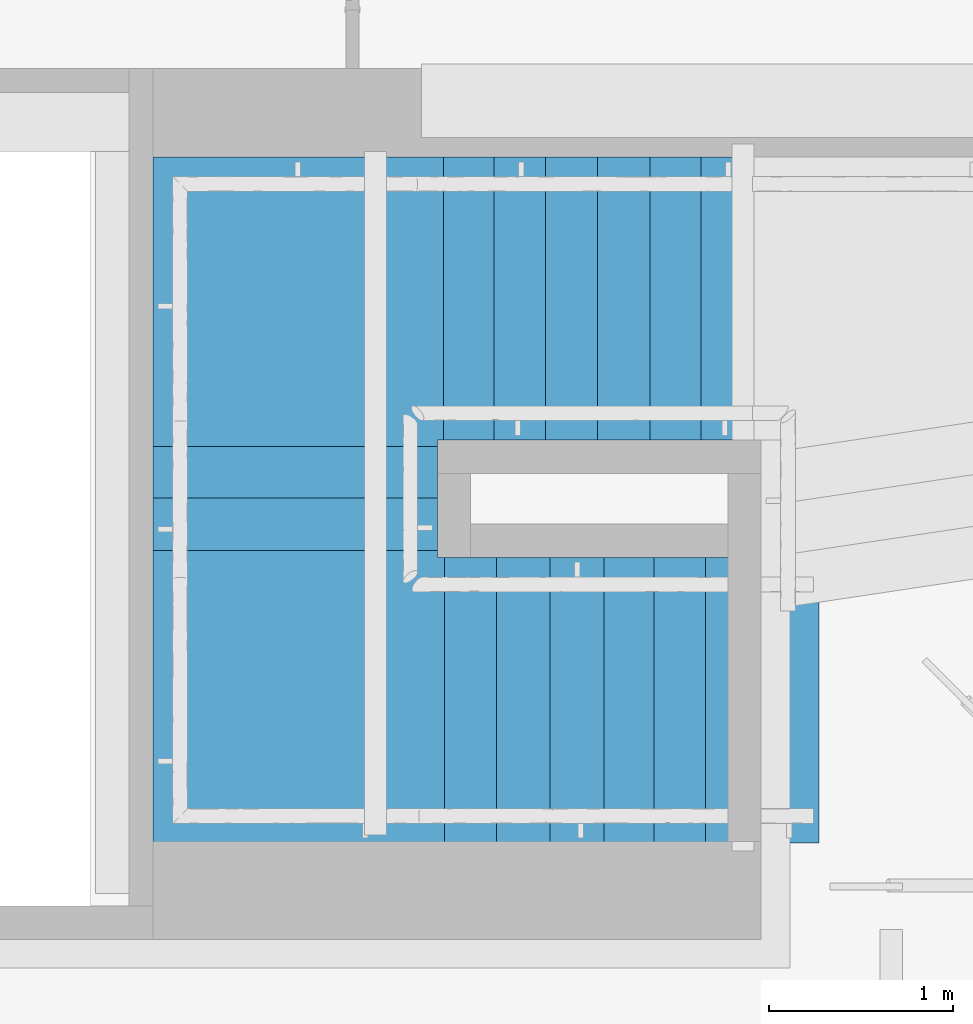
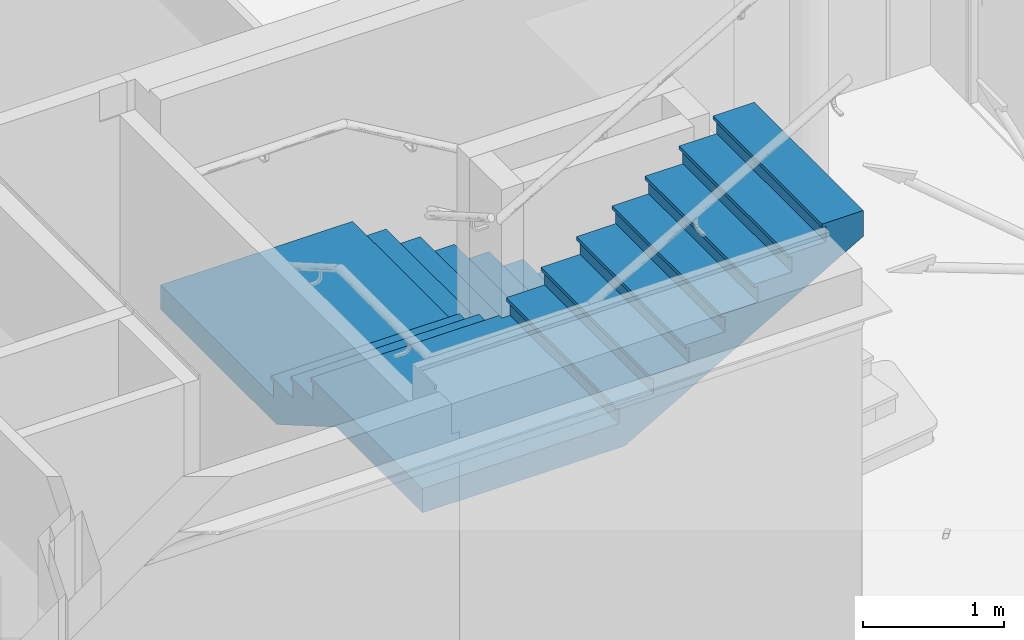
# One storey, part 46 of 65: 1 stair flight, 1 element without a shape of its own.
"""IFC4 building model written with IfcOpenShell, lengths in metres."""

import ifcopenshell
import ifcopenshell.guid

model = None  # the IFC model being written
_history = None  # IfcOwnerHistory: only IFC2X3 demands one
_inside = {}  # id of a spatial element -> (the spatial element, [elements in it])
_under = {}  # id of a project, library or spatial element -> (it, [spatial elements below it])
_declared = {}  # id of a project -> (the project, [libraries it declares])
_typed = {}  # id of a type object -> (the type object, [elements of that type])
_made_of = {}  # id of a material, layer set ... -> (it, [elements and type objects made of it])


def new_model(schema):
    """Start an empty IFC model of exactly this schema.

    Asked for "IFC4X3", IfcOpenShell would pick the latest addendum, in which some entities
    have other attributes; the version numbers below select the first issue.
    IFC2X3 requires an IfcOwnerHistory on every rooted entity: one is made here for all.
    """
    global model, _history
    if schema == "IFC4X3":
        model = ifcopenshell.file(schema_version=(4, 3, 0, 0))
    else:
        model = ifcopenshell.file(schema=schema)
    _inside.clear()
    _under.clear()
    _declared.clear()
    _typed.clear()
    _made_of.clear()
    _history = None
    if model.schema == "IFC2X3":
        org = make("IfcOrganization", Name="unknown")
        user = make(
            "IfcPersonAndOrganization",
            ThePerson=make("IfcPerson", FamilyName="unknown"),
            TheOrganization=org,
        )
        app = make(
            "IfcApplication",
            ApplicationDeveloper=org,
            Version="unknown",
            ApplicationFullName="unknown",
            ApplicationIdentifier="unknown",
        )
        _history = make(
            "IfcOwnerHistory",
            OwningUser=user,
            OwningApplication=app,
            ChangeAction="ADDED",
            CreationDate=0,
        )
    return model


def make(cls, **values):
    """One entity of the class cls with the attributes given. An attribute that is None is left unset."""
    return model.create_entity(
        cls, **{name: value for name, value in values.items() if value is not None}
    )


def entity(cls, *values):
    """Any entity or typed value of the class cls, its attributes in the order of the schema. None: left unset."""
    e = model.create_entity(cls)
    for i, value in enumerate(values):
        if value is not None:
            e[i] = value
    return e


def rooted(cls, **values):
    """An entity with a GlobalId (a new one), such as an element, a storey or a relation."""
    return make(cls, GlobalId=ifcopenshell.guid.new(), OwnerHistory=_history, **values)


def si_unit(unit_type, name, prefix=None):
    """IfcSIUnit, for example si_unit("LENGTHUNIT", "METRE", prefix="MILLI")."""
    return make("IfcSIUnit", UnitType=unit_type, Prefix=prefix, Name=name)


def converted_unit(unit_type, name, factor, base, dimensions=None, offset=None):
    """IfcConversionBasedUnit, such as the inch: factor (a typed value) times the base unit."""
    return make(
        "IfcConversionBasedUnit"
        if offset is None
        else "IfcConversionBasedUnitWithOffset",
        ConversionOffset=offset,
        Dimensions=None
        if dimensions is None
        else entity("IfcDimensionalExponents", *dimensions),
        UnitType=unit_type,
        Name=name,
        ConversionFactor=make(
            "IfcMeasureWithUnit", ValueComponent=factor, UnitComponent=base
        ),
    )


def derived_unit(unit_type, elements):
    """IfcDerivedUnit: a product of units, each with its exponent."""
    return make(
        "IfcDerivedUnit",
        Elements=[
            make("IfcDerivedUnitElement", Unit=unit, Exponent=power)
            for unit, power in elements
        ],
        UnitType=unit_type,
    )


def assignment(units):
    """IfcUnitAssignment: the units of a project."""
    return None if units is None else make("IfcUnitAssignment", Units=units)


def point(xyz):
    """IfcCartesianPoint."""
    return None if xyz is None else make("IfcCartesianPoint", Coordinates=xyz)


def direction(xyz):
    """IfcDirection."""
    return None if xyz is None else make("IfcDirection", DirectionRatios=xyz)


def frame(location, z_axis=None, x_axis=None):
    """IfcAxis2Placement3D, a coordinate frame: its origin and axes. An axis left out is left unset."""
    return make(
        "IfcAxis2Placement3D",
        Location=point(location),
        Axis=direction(z_axis),
        RefDirection=direction(x_axis),
    )


def origin():
    """The frame at (0, 0, 0) with its axes left unset."""
    return frame((0.0, 0.0, 0.0))


def place(relative_to, where):
    """IfcLocalPlacement: puts the frame where relative to a parent placement (None: the world)."""
    return make(
        "IfcLocalPlacement", PlacementRelTo=relative_to, RelativePlacement=where
    )


def context(
    kind, dimensions, precision=None, world=None, true_north=None, identifier=None
):
    """IfcGeometricRepresentationContext, for example the 3D "Model" context."""
    return make(
        "IfcGeometricRepresentationContext",
        ContextIdentifier=identifier,
        ContextType=kind,
        CoordinateSpaceDimension=dimensions,
        Precision=precision,
        WorldCoordinateSystem=world,
        TrueNorth=true_north,
    )


def subcontext(parent, identifier, kind, view, scale=None):
    """IfcGeometricRepresentationSubContext, for example "Body" below "Model"."""
    return make(
        "IfcGeometricRepresentationSubContext",
        ContextIdentifier=identifier,
        ContextType=kind,
        ParentContext=parent,
        TargetScale=scale,
        TargetView=view,
    )


def project(units=None, contexts=None):
    """IfcProject with its units and contexts."""
    return rooted(
        "IfcProject",
        Name="project",
        RepresentationContexts=contexts,
        UnitsInContext=assignment(units),
    )


def spatial(cls, under=None, at=None, **own):
    """A site, building, storey or space (cls), placed at a placement, below another one or the project."""
    s = rooted(cls, ObjectPlacement=at, **own)
    if under is not None:
        _under.setdefault(under.id(), (under, []))[1].append(s)
    return s


def point_list(points):
    """IfcCartesianPointList2D or 3D."""
    cls = (
        "IfcCartesianPointList2D" if len(points[0]) == 2 else "IfcCartesianPointList3D"
    )
    return make(cls, CoordList=points)


def polygons(points, faces, closed=None, point_numbers=None):
    """IfcPolygonalFaceSet: a face is its outer loop, then its inner loops; points numbered from 1."""
    made = []
    for loops in faces:
        if len(loops) == 1:
            made.append(make("IfcIndexedPolygonalFace", CoordIndex=loops[0]))
        else:
            made.append(
                make(
                    "IfcIndexedPolygonalFaceWithVoids",
                    CoordIndex=loops[0],
                    InnerCoordIndices=loops[1:],
                )
            )
    return make(
        "IfcPolygonalFaceSet",
        Coordinates=point_list(points),
        Closed=closed,
        Faces=made,
        PnIndex=point_numbers,
    )


def shape(context_of_items, identifier, shape_type, items):
    """IfcShapeRepresentation: the items that make up one representation, for example the "Body"."""
    return make(
        "IfcShapeRepresentation",
        ContextOfItems=context_of_items,
        RepresentationIdentifier=identifier,
        RepresentationType=shape_type,
        Items=items,
    )


def material(Name=None, Category=None):
    """IfcMaterial."""
    return make("IfcMaterial", Name=Name, Category=Category)


def constituent(of_material, Name=None, Category=None, fraction=None):
    """IfcMaterialConstituent: one of the materials an element consists of."""
    return make(
        "IfcMaterialConstituent",
        Name=Name,
        Material=of_material,
        Fraction=fraction,
        Category=Category,
    )


def constituent_set(constituents=None, Name=None):
    """IfcMaterialConstituentSet."""
    return make(
        "IfcMaterialConstituentSet", Name=Name, MaterialConstituents=constituents
    )


def made_of(thing, what):
    """Note that an element or type object is made of a material, layer set ...; save() writes the relation."""
    if what is not None:
        _made_of.setdefault(what.id(), (what, []))[1].append(thing)
    return thing


def type_object(cls, material=None, **own):
    """A type object (cls), such as IfcWallType, which elements share."""
    return made_of(rooted(cls, **own), material)


def element(
    cls,
    number,
    at=None,
    inside=None,
    cuts=None,
    type_object=None,
    material=None,
    context=None,
    identifier="Body",
    shape_type=None,
    held_by="IfcProductDefinitionShape",
    body=None,
    shapes=None,
    **own,
):
    """One element of the class cls, such as IfcWall. Its Tag is "e" and its number.

    at: its placement. inside: the storey or other place that contains it. cuts: it is an
    opening in that element (IfcRelVoidsElement). A single representation is given by context,
    identifier, shape_type and body (its items); several are given by shapes. held_by: the class
    of the entity that holds the representations. save() writes the other relations.
    """
    e = rooted(cls, Tag="e%d" % number, ObjectPlacement=at, **own)
    if body is not None:
        shapes = [shape(context, identifier, shape_type, body)]
    if shapes is not None:
        e.Representation = make(held_by, Representations=shapes)
    if inside is not None:
        _inside.setdefault(inside.id(), (inside, []))[1].append(e)
    if cuts is not None:
        rooted(
            "IfcRelVoidsElement", RelatingBuildingElement=cuts, RelatedOpeningElement=e
        )
    if type_object is not None:
        _typed.setdefault(type_object.id(), (type_object, []))[1].append(e)
    return made_of(e, material)


def aggregate(whole, parts):
    """IfcRelAggregates: a whole, such as a stair, and the parts it consists of."""
    return rooted("IfcRelAggregates", RelatingObject=whole, RelatedObjects=parts)


def save(model, path):
    """Write the relations noted so far, then the file.

    IfcRelAggregates (storeys below a building ...), IfcRelContainedInSpatialStructure (elements
    in a storey), IfcRelDefinesByType, IfcRelAssociatesMaterial and IfcRelDeclares: one each for
    every whole, place, type object, material and project.
    """
    for whole, parts in _under.values():
        aggregate(whole, parts)
    for where, things in _inside.values():
        rooted(
            "IfcRelContainedInSpatialStructure",
            RelatedElements=things,
            RelatingStructure=where,
        )
    for kind, things in _typed.values():
        rooted("IfcRelDefinesByType", RelatedObjects=things, RelatingType=kind)
    for what, things in _made_of.values():
        rooted("IfcRelAssociatesMaterial", RelatedObjects=things, RelatingMaterial=what)
    for by, libraries in _declared.values():
        rooted("IfcRelDeclares", RelatingContext=by, RelatedDefinitions=libraries)
    model.write(path)


model = new_model("IFC4")

# Units and contexts
model_context = context("Model", 3, precision=1e-05, world=origin(), true_north=direction((6.12303176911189e-17, 1.0)))
body_context = subcontext(model_context, "Body", "Model", "MODEL_VIEW")
ifc_project = project(units=[si_unit("LENGTHUNIT", "METRE"), si_unit("AREAUNIT", "SQUARE_METRE"), si_unit("VOLUMEUNIT", "CUBIC_METRE"), converted_unit("PLANEANGLEUNIT", "DEGREE", entity("IfcRatioMeasure", 0.0174532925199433), si_unit("PLANEANGLEUNIT", "RADIAN"), dimensions=[0, 0, 0, 0, 0, 0, 0]), si_unit("MASSUNIT", "GRAM", prefix="KILO"), derived_unit("MASSDENSITYUNIT", [(si_unit("MASSUNIT", "GRAM", prefix="KILO"), 1), (si_unit("LENGTHUNIT", "METRE"), -3)]), derived_unit("MOMENTOFINERTIAUNIT", [(si_unit("LENGTHUNIT", "METRE"), 4)]), si_unit("TIMEUNIT", "SECOND"), si_unit("FREQUENCYUNIT", "HERTZ"), si_unit("THERMODYNAMICTEMPERATUREUNIT", "DEGREE_CELSIUS"), derived_unit("THERMALTRANSMITTANCEUNIT", [(si_unit("MASSUNIT", "GRAM", prefix="KILO"), 1), (si_unit("THERMODYNAMICTEMPERATUREUNIT", "KELVIN"), -1), (si_unit("TIMEUNIT", "SECOND"), -3)]), derived_unit("VOLUMETRICFLOWRATEUNIT", [(si_unit("LENGTHUNIT", "METRE"), 3), (si_unit("TIMEUNIT", "SECOND"), -1)]), si_unit("ELECTRICCURRENTUNIT", "AMPERE"), si_unit("ELECTRICVOLTAGEUNIT", "VOLT"), si_unit("POWERUNIT", "WATT"), si_unit("FORCEUNIT", "NEWTON", prefix="KILO"), si_unit("ILLUMINANCEUNIT", "LUX"), si_unit("LUMINOUSFLUXUNIT", "LUMEN"), si_unit("LUMINOUSINTENSITYUNIT", "CANDELA"), derived_unit("USERDEFINED", [(si_unit("MASSUNIT", "GRAM", prefix="KILO"), -1), (si_unit("LENGTHUNIT", "METRE"), -2), (si_unit("TIMEUNIT", "SECOND"), 3), (si_unit("LUMINOUSFLUXUNIT", "LUMEN"), 1)]), derived_unit("LINEARVELOCITYUNIT", [(si_unit("LENGTHUNIT", "METRE"), 1), (si_unit("TIMEUNIT", "SECOND"), -1)]), si_unit("PRESSUREUNIT", "PASCAL"), derived_unit("USERDEFINED", [(si_unit("LENGTHUNIT", "METRE"), -2), (si_unit("MASSUNIT", "GRAM", prefix="KILO"), 1), (si_unit("TIMEUNIT", "SECOND"), -2)]), derived_unit("LINEARFORCEUNIT", [(si_unit("MASSUNIT", "GRAM", prefix="KILO"), 1), (si_unit("LENGTHUNIT", "METRE"), 1), (si_unit("TIMEUNIT", "SECOND"), -2), (si_unit("LENGTHUNIT", "METRE"), -1)]), derived_unit("PLANARFORCEUNIT", [(si_unit("MASSUNIT", "GRAM", prefix="KILO"), 1), (si_unit("LENGTHUNIT", "METRE"), 1), (si_unit("TIMEUNIT", "SECOND"), -2), (si_unit("LENGTHUNIT", "METRE"), -2)])], contexts=[model_context])

# Site, building, storey
site_placement = place(None, origin())
site = spatial("IfcSite", under=ifc_project, at=site_placement, Name="Default", CompositionType="ELEMENT")
building_placement = place(site_placement, origin())
building = spatial("IfcBuilding", under=site, at=building_placement, Name="HOTEL CONSULAIRE BOULOGNE SUR MER", CompositionType="ELEMENT")
storey_placement = place(building_placement, origin())
storey = spatial("IfcBuildingStorey", under=building, at=storey_placement, Name="Niveau 0", CompositionType="ELEMENT", Elevation=1.31981936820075e-13)

# Stair, stair flight
stair_type = type_object("IfcStairType", PredefinedType="NOTDEFINED")
stair_placement = place(storey_placement, origin())
stair = element("IfcStair", 1, at=stair_placement, inside=storey, type_object=stair_type, Name="Escalier coulé sur place:Escalier", PredefinedType="NOTDEFINED")
ifc_material_1 = material(Name="carrelage 30x30")
ifc_constituent_1 = constituent(ifc_material_1, Name="carrelage 30x30", Category="Matériaux")
ifc_material_2 = material(Name="Maçonnerie - Béton", Category="Béton")
ifc_constituent_2 = constituent(ifc_material_2, Name="Maçonnerie - Béton", Category="Matériaux")
ifc_constituent_set = constituent_set(constituents=[ifc_constituent_1, ifc_constituent_2], Name="MaterialConstituentSet")
stair_flight_type = type_object("IfcStairFlightType", Name="Volée monobloc:Profondeur de structure 180", PredefinedType="NOTDEFINED")
stair_flight_placement = place(stair_placement, frame((1.75747131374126, -19.5719143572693, 0.0)))
stair_flight = element("IfcStairFlight", 2, at=stair_flight_placement, type_object=stair_flight_type, material=ifc_constituent_set, Name="Escalier coulé sur place:Escalier:350448 Run 1", ObjectType="Volée monobloc:Profondeur de structure 180", PredefinedType="NOTDEFINED", context=body_context, shape_type="Tessellation", body=[
    polygons([(2.93988920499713, 2.1830268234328, 0.843418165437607), (3.24788920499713, 2.1830268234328, 0.843418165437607), (3.24788920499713, 3.71667231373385, 0.843418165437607), (2.93988920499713, 3.71667231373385, 0.843418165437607), (2.93988920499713, 2.1830268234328, 0.813418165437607), (2.93988920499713, 3.71667231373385, 0.813418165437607), (3.24788920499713, 3.71667231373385, 0.813418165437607), (3.24788920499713, 2.1830268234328, 0.813418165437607)], [[[4, 1, 2, 3]], [[7, 8, 5, 6]], [[2, 1, 5, 8]], [[3, 2, 8, 7]], [[4, 3, 7, 6]], [[1, 4, 6, 5]]], closed=True),
    polygons([(2.66188920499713, 2.1830268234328, 1.00683633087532), (2.96988920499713, 2.1830268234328, 1.00683633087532), (2.96988920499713, 3.71667231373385, 1.00683633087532), (2.66188920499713, 3.71667231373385, 1.00683633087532), (2.66188920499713, 2.1830268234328, 0.976836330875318), (2.66188920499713, 3.71667231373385, 0.976836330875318), (2.96988920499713, 3.71667231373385, 0.976836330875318), (2.96988920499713, 2.1830268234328, 0.976836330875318)], [[[4, 1, 2, 3]], [[7, 8, 5, 6]], [[2, 1, 5, 8]], [[3, 2, 8, 7]], [[4, 3, 7, 6]], [[1, 4, 6, 5]]], closed=True),
    polygons([(2.37727978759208, 2.1830268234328, 1.17025449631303), (2.69188920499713, 2.1830268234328, 1.17025449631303), (2.69188920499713, 3.71667231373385, 1.17025449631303), (2.37727978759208, 3.71667231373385, 1.17025449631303), (2.37727978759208, 2.1830268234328, 1.14025449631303), (2.37727978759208, 3.71667231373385, 1.14025449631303), (2.69188920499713, 3.71667231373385, 1.14025449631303), (2.69188920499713, 2.1830268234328, 1.14025449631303)], [[[4, 1, 2, 3]], [[7, 8, 5, 6]], [[2, 1, 5, 8]], [[3, 2, 8, 7]], [[4, 3, 7, 6]], [[1, 4, 6, 5]]], closed=True),
    polygons([(2.0976635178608, 2.1830268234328, 1.33367266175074), (2.40727978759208, 2.1830268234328, 1.33367266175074), (2.40727978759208, 3.71667231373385, 1.33367266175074), (2.0976635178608, 3.71667231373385, 1.33367266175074), (2.0976635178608, 2.1830268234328, 1.30367266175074), (2.0976635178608, 3.71667231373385, 1.30367266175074), (2.40727978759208, 3.71667231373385, 1.30367266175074), (2.40727978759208, 2.1830268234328, 1.30367266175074)], [[[4, 1, 2, 3]], [[7, 8, 5, 6]], [[2, 1, 5, 8]], [[3, 2, 8, 7]], [[4, 3, 7, 6]], [[1, 4, 6, 5]]], closed=True),
    polygons([(1.8176635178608, 2.1830268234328, 1.49709082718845), (2.1276635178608, 2.1830268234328, 1.49709082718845), (2.1276635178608, 3.71667231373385, 1.49709082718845), (1.8176635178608, 3.71667231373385, 1.49709082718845), (1.8176635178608, 2.1830268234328, 1.46709082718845), (1.8176635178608, 3.71667231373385, 1.46709082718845), (2.1276635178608, 3.71667231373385, 1.46709082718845), (2.1276635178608, 2.1830268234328, 1.46709082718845)], [[[4, 1, 2, 3]], [[7, 8, 5, 6]], [[2, 1, 5, 8]], [[3, 2, 8, 7]], [[4, 3, 7, 6]], [[1, 4, 6, 5]]], closed=True),
    polygons([(1.54283104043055, 2.1830268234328, 1.66050899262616), (1.8476635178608, 2.1830268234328, 1.66050899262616), (1.8476635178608, 3.71667231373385, 1.66050899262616), (1.54283104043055, 3.71667231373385, 1.66050899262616), (1.54283104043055, 2.1830268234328, 1.63050899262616), (1.54283104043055, 3.71667231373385, 1.63050899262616), (1.8476635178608, 3.71667231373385, 1.63050899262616), (1.8476635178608, 2.1830268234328, 1.63050899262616)], [[[4, 1, 2, 3]], [[7, 8, 5, 6]], [[2, 1, 5, 8]], [[3, 2, 8, 7]], [[4, 3, 7, 6]], [[1, 4, 6, 5]]], closed=True),
    polygons([(1.53998364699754, 2.11792888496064, 1.82392715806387), (1.53998364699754, 2.1830268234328, 1.82392715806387), (1.57283104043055, 2.1830268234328, 1.82392715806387), (1.57283104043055, 3.71667231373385, 1.82392715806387), (2.70716782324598e-16, 3.71667231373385, 1.82392715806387), (2.70716782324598e-16, 2.11792888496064, 1.82392715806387), (1.53998364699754, 2.11792888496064, 1.79392715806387), (2.70716782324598e-16, 2.11792888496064, 1.79392715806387), (2.70716782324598e-16, 3.71667231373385, 1.79392715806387), (1.57283104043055, 3.71667231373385, 1.79392715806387), (1.57283104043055, 2.1830268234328, 1.79392715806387), (1.53998364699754, 2.1830268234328, 1.79392715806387)], [[[2, 3, 4, 5, 6, 1]], [[9, 10, 11, 12, 7, 8]], [[2, 1, 7, 12]], [[4, 3, 11, 10]], [[3, 2, 12, 11]], [[1, 6, 8, 7]], [[5, 4, 10, 9]], [[6, 5, 9, 8]]], closed=True),
    polygons([(1.53998364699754, 1.83892888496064, 1.98734532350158), (1.53998364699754, 2.14792888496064, 1.98734532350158), (2.70716782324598e-16, 2.14792888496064, 1.98734532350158), (2.70716782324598e-16, 1.83892888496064, 1.98734532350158), (1.53998364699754, 1.83892888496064, 1.95734532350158), (2.70716782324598e-16, 1.83892888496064, 1.95734532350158), (2.70716782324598e-16, 2.14792888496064, 1.95734532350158), (1.53998364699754, 2.14792888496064, 1.95734532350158)], [[[4, 1, 2, 3]], [[7, 8, 5, 6]], [[2, 1, 5, 8]], [[3, 2, 8, 7]], [[4, 3, 7, 6]], [[1, 4, 6, 5]]], closed=True),
    polygons([(1.53998364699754, 1.55392888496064, 2.15076348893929), (1.53998364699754, 1.86892888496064, 2.15076348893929), (2.70716782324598e-16, 1.86892888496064, 2.15076348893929), (2.70716782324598e-16, 1.55392888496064, 2.15076348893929), (1.53998364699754, 1.55392888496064, 2.12076348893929), (2.70716782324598e-16, 1.55392888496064, 2.12076348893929), (2.70716782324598e-16, 1.86892888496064, 2.12076348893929), (1.53998364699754, 1.86892888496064, 2.12076348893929)], [[[4, 1, 2, 3]], [[7, 8, 5, 6]], [[2, 1, 5, 8]], [[3, 2, 8, 7]], [[4, 3, 7, 6]], [[1, 4, 6, 5]]], closed=True),
    polygons([(1.60816075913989, 1.54702682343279, 2.314181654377), (1.53998364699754, 1.54702682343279, 2.314181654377), (1.53998364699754, 1.58392888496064, 2.314181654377), (2.70716782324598e-16, 1.58392888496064, 2.314181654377), (2.70716782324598e-16, 0.0, 2.314181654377), (1.60816075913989, 0.0, 2.314181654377), (1.60816075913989, 1.54702682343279, 2.284181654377), (1.60816075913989, 0.0, 2.284181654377), (2.70716782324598e-16, 0.0, 2.284181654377), (2.70716782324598e-16, 1.58392888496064, 2.284181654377), (1.53998364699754, 1.58392888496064, 2.284181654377), (1.53998364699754, 1.54702682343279, 2.284181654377)], [[[2, 3, 4, 5, 6, 1]], [[9, 10, 11, 12, 7, 8]], [[2, 1, 7, 12]], [[4, 3, 11, 10]], [[3, 2, 12, 11]], [[1, 6, 8, 7]], [[5, 4, 10, 9]], [[6, 5, 9, 8]]], closed=True),
    polygons([(1.89098836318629, 1.54702682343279, 2.47759981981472), (1.57816075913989, 1.54702682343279, 2.47759981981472), (1.57816075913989, 0.0, 2.47759981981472), (1.89098836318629, 0.0, 2.47759981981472), (1.89098836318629, 1.54702682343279, 2.44759981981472), (1.89098836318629, 0.0, 2.44759981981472), (1.57816075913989, 0.0, 2.44759981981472), (1.57816075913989, 1.54702682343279, 2.44759981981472)], [[[4, 1, 2, 3]], [[7, 8, 5, 6]], [[2, 1, 5, 8]], [[3, 2, 8, 7]], [[4, 3, 7, 6]], [[1, 4, 6, 5]]], closed=True),
    polygons([(2.18198836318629, 1.54702682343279, 2.64101798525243), (1.86098836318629, 1.54702682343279, 2.64101798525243), (1.86098836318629, 0.0, 2.64101798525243), (2.18198836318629, 0.0, 2.64101798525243), (2.18198836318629, 1.54702682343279, 2.61101798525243), (2.18198836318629, 0.0, 2.61101798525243), (1.86098836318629, 0.0, 2.61101798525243), (1.86098836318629, 1.54702682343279, 2.61101798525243)], [[[4, 1, 2, 3]], [[7, 8, 5, 6]], [[2, 1, 5, 8]], [[3, 2, 8, 7]], [[4, 3, 7, 6]], [[1, 4, 6, 5]]], closed=True),
    polygons([(2.47398836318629, 1.54702682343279, 2.80443615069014), (2.15198836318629, 1.54702682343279, 2.80443615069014), (2.15198836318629, 0.0, 2.80443615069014), (2.47398836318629, 0.0, 2.80443615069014), (2.47398836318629, 1.54702682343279, 2.77443615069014), (2.47398836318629, 0.0, 2.77443615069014), (2.15198836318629, 0.0, 2.77443615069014), (2.15198836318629, 1.54702682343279, 2.77443615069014)], [[[4, 1, 2, 3]], [[7, 8, 5, 6]], [[2, 1, 5, 8]], [[3, 2, 8, 7]], [[4, 3, 7, 6]], [[1, 4, 6, 5]]], closed=True),
    polygons([(2.74398836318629, 1.54702682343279, 2.96785431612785), (2.44398836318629, 1.54702682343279, 2.96785431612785), (2.44398836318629, 0.0, 2.96785431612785), (2.74398836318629, 0.0, 2.96785431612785), (2.74398836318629, 1.54702682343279, 2.93785431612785), (2.74398836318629, 0.0, 2.93785431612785), (2.44398836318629, 0.0, 2.93785431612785), (2.44398836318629, 1.54702682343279, 2.93785431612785)], [[[4, 1, 2, 3]], [[7, 8, 5, 6]], [[2, 1, 5, 8]], [[3, 2, 8, 7]], [[4, 3, 7, 6]], [[1, 4, 6, 5]]], closed=True),
    polygons([(3.02241508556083, 1.54702682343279, 3.13127248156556), (2.71398836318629, 1.54702682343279, 3.13127248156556), (2.71398836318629, 0.0, 3.13127248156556), (3.02241508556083, 0.0, 3.13127248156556), (3.02241508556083, 1.54702682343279, 3.10127248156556), (3.02241508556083, 0.0, 3.10127248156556), (2.71398836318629, 0.0, 3.10127248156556), (2.71398836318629, 1.54702682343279, 3.10127248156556)], [[[4, 1, 2, 3]], [[7, 8, 5, 6]], [[2, 1, 5, 8]], [[3, 2, 8, 7]], [[4, 3, 7, 6]], [[1, 4, 6, 5]]], closed=True),
    polygons([(3.30084180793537, 1.54702682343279, 3.29469064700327), (2.99241508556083, 1.54702682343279, 3.29469064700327), (2.99241508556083, 0.0, 3.29469064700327), (3.30084180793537, 0.0, 3.29469064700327), (3.30084180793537, 1.54702682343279, 3.26469064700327), (3.30084180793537, 0.0, 3.26469064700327), (2.99241508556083, 0.0, 3.26469064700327), (2.99241508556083, 1.54702682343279, 3.26469064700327)], [[[4, 1, 2, 3]], [[7, 8, 5, 6]], [[2, 1, 5, 8]], [[3, 2, 8, 7]], [[4, 3, 7, 6]], [[1, 4, 6, 5]]], closed=True),
    polygons([(3.60926853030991, 1.54702682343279, 3.45810881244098), (3.27084180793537, 1.54702682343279, 3.45810881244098), (3.27084180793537, 0.0, 3.45810881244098), (3.60926853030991, 0.0, 3.45810881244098), (3.60926853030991, 1.54702682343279, 3.42810881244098), (3.60926853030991, 0.0, 3.42810881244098), (3.27084180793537, 0.0, 3.42810881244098), (3.27084180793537, 1.54702682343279, 3.42810881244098)], [[[4, 1, 2, 3]], [[7, 8, 5, 6]], [[2, 1, 5, 8]], [[3, 2, 8, 7]], [[4, 3, 7, 6]], [[1, 4, 6, 5]]], closed=True),
    polygons([(2.93988920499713, 2.1830268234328, 0.813418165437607), (3.21788920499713, 2.1830268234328, 0.813418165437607), (3.21788920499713, 3.71667231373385, 0.813418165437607), (2.93988920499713, 3.71667231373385, 0.813418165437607), (2.93988920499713, 2.1830268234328, 0.68), (3.21788920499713, 2.1830268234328, 0.68), (3.21788920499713, 3.71667231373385, 0.68), (2.93988920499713, 3.71667231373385, 0.68), (2.66188920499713, 2.1830268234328, 0.976836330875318), (2.93988920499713, 2.1830268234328, 0.976836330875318), (2.93988920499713, 3.71667231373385, 0.976836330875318), (2.66188920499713, 3.71667231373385, 0.976836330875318), (2.66188920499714, 2.1830268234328, 0.766888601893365), (2.81032584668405, 2.1830268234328, 0.68), (2.81032584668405, 3.71667231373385, 0.679999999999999), (2.66188920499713, 3.71667231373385, 0.766888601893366), (2.37727978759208, 2.1830268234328, 1.14025449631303), (2.66188920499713, 2.1830268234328, 1.14025449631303), (2.66188920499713, 3.71667231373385, 1.14025449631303), (2.37727978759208, 3.71667231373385, 1.14025449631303), (2.37727978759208, 2.1830268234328, 0.933487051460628), (2.37727978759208, 3.71667231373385, 0.933487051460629), (2.0976635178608, 2.1830268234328, 1.30367266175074), (2.37727978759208, 2.1830268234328, 1.30367266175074), (2.37727978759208, 3.71667231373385, 1.30367266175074), (2.0976635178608, 3.71667231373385, 1.30367266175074), (2.0976635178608, 2.1830268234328, 1.09716272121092), (2.0976635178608, 3.71667231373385, 1.09716272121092), (1.8176635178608, 2.1830268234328, 1.46709082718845), (2.0976635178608, 2.1830268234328, 1.46709082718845), (2.0976635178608, 3.71667231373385, 1.46709082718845), (1.8176635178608, 3.71667231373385, 1.46709082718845), (1.8176635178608, 2.1830268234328, 1.26106301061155), (1.8176635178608, 3.71667231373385, 1.26106301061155), (1.54283104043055, 2.1830268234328, 1.63050899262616), (1.8176635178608, 2.1830268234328, 1.63050899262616), (1.8176635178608, 3.71667231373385, 1.63050899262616), (1.54283104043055, 3.71667231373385, 1.63050899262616), (1.54283104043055, 2.1830268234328, 1.42193844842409), (1.54283104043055, 3.71667231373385, 1.42193844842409), (1.53998364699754, 2.11792888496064, 1.79392715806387), (1.53998364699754, 2.1830268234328, 1.79392715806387), (1.54283104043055, 2.1830268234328, 1.79392715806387), (1.54283104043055, 3.71667231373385, 1.79392715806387), (1.21484602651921, 3.71667231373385, 1.79392715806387), (2.70716782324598e-16, 3.71667231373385, 1.79392715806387), (2.70716782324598e-16, 2.11792888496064, 1.79392715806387), (1.53998364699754, 2.11792888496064, 1.61392715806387), (1.53998364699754, 2.1830268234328, 1.61392715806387), (1.21484602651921, 2.1830268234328, 1.61392715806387), (1.21484602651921, 3.71667231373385, 1.61392715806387), (2.70716782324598e-16, 3.71667231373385, 1.61392715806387), (2.70716782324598e-16, 2.11792888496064, 1.61392715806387), (1.53998364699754, 2.11792888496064, 1.95734532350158), (2.70716782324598e-16, 2.11792888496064, 1.95734532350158), (2.70716782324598e-16, 2.06954283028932, 1.95734532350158), (2.70716782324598e-16, 1.83892888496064, 1.95734532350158), (1.53998364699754, 1.83892888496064, 1.95734532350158), (1.53998364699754, 2.06954283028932, 1.95734532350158), (1.53998364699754, 1.83892888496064, 1.74756725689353), (1.53998364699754, 2.06954283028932, 1.61392715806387), (2.70716782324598e-16, 2.06954283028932, 1.61392715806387), (2.70716782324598e-16, 1.83892888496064, 1.74756725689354), (1.53998364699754, 1.55392888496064, 2.12076348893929), (1.53998364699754, 1.83892888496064, 2.12076348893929), (2.70716782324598e-16, 1.83892888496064, 2.12076348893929), (2.70716782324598e-16, 1.55392888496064, 2.12076348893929), (1.53998364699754, 1.55392888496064, 1.91272391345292), (2.70716782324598e-16, 1.55392888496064, 1.91272391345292), (1.60816075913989, 1.54702682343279, 2.284181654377), (1.53998364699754, 1.54702682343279, 2.284181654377), (1.53998364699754, 1.55392888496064, 2.284181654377), (2.70716782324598e-16, 1.55392888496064, 2.284181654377), (2.70716782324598e-16, 1.22354283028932, 2.284181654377), (2.70716782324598e-16, 0.0, 2.284181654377), (1.60816075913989, 0.0, 2.284181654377), (1.60816075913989, 1.54702682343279, 2.104181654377), (1.53998364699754, 1.54702682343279, 2.104181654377), (1.53998364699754, 1.22354283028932, 2.10418165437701), (2.70716782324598e-16, 1.22354283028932, 2.104181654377), (2.70716782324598e-16, 0.0, 2.104181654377), (1.60816075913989, 0.0, 2.104181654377), (1.60816075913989, 1.54702682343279, 2.44759981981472), (1.60816075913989, 0.0, 2.44759981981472), (1.65652996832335, 0.0, 2.44759981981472), (1.89098836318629, 0.0, 2.44759981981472), (1.89098836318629, 1.54702682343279, 2.44759981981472), (1.65652996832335, 1.54702682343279, 2.44759981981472), (1.89098836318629, 1.54702682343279, 2.23999493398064), (1.65652996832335, 1.54702682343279, 2.104181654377), (1.65652996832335, 0.0, 2.10418165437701), (1.89098836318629, 0.0, 2.23999493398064), (2.18198836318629, 1.54702682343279, 2.61101798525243), (1.89098836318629, 1.54702682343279, 2.61101798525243), (1.89098836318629, 0.0, 2.61101798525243), (2.18198836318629, 0.0, 2.61101798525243), (2.18198836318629, 1.54702682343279, 2.40856072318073), (2.18198836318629, 0.0, 2.40856072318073), (2.47398836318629, 1.54702682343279, 2.77443615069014), (2.18198836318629, 1.54702682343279, 2.77443615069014), (2.18198836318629, 0.0, 2.77443615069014), (2.47398836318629, 0.0, 2.77443615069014), (2.47398836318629, 1.54702682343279, 2.57770577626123), (2.47398836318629, 0.0, 2.57770577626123), (2.74398836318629, 1.54702682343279, 2.93785431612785), (2.47398836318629, 1.54702682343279, 2.93785431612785), (2.47398836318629, 0.0, 2.93785431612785), (2.74398836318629, 0.0, 2.93785431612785), (2.74398836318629, 1.54702682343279, 2.73410702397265), (2.74398836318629, 0.0, 2.73410702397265), (3.02241508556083, 1.54702682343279, 3.10127248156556), (2.74398836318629, 1.54702682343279, 3.10127248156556), (2.74398836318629, 0.0, 3.10127248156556), (3.02241508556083, 0.0, 3.10127248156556), (3.02241508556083, 1.54702682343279, 2.89538956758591), (3.02241508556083, 0.0, 2.89538956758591), (3.30084180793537, 1.54702682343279, 3.26469064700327), (3.02241508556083, 1.54702682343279, 3.26469064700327), (3.02241508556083, 0.0, 3.26469064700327), (3.30084180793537, 0.0, 3.26469064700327), (3.30084180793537, 1.54702682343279, 3.05667211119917), (3.30084180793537, 0.0, 3.05667211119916), (3.60926853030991, 1.54702682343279, 3.42810881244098), (3.30084180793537, 1.54702682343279, 3.42810881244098), (3.30084180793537, 0.0, 3.42810881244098), (3.60926853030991, 0.0, 3.42810881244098), (3.60926853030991, 1.54702682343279, 3.2353325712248), (3.60926853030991, 0.0, 3.2353325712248)], [[[4, 1, 2, 3]], [[12, 9, 10, 11]], [[20, 17, 18, 19]], [[26, 23, 24, 25]], [[32, 29, 30, 31]], [[38, 35, 36, 37]], [[42, 43, 44, 45, 46, 47, 41]], [[57, 58, 59, 54, 55, 56]], [[67, 64, 65, 66]], [[71, 72, 73, 74, 75, 76, 70]], [[86, 87, 88, 83, 84, 85]], [[96, 93, 94, 95]], [[102, 99, 100, 101]], [[108, 105, 106, 107]], [[114, 111, 112, 113]], [[120, 117, 118, 119]], [[126, 123, 124, 125]], [[2, 1, 10, 9, 18, 17, 24, 23, 30, 29, 36, 35, 43, 42, 49, 50, 39, 33, 27, 21, 13, 14, 5, 6]], [[76, 75, 81, 82, 91, 92, 98, 104, 110, 116, 122, 128, 126, 125, 120, 119, 114, 113, 108, 107, 102, 101, 96, 95, 86, 85, 84]], [[3, 2, 6, 7]], [[11, 10, 1, 4]], [[19, 18, 9, 12]], [[25, 24, 17, 20]], [[31, 30, 23, 26]], [[37, 36, 29, 32]], [[42, 41, 54, 59, 58, 65, 64, 72, 71, 78, 79, 68, 60, 61, 48, 49]], [[44, 43, 35, 38]], [[123, 126, 128, 127]], [[4, 3, 7, 8, 15, 16, 22, 28, 34, 40, 51, 52, 46, 45, 44, 38, 37, 32, 31, 26, 25, 20, 19, 12, 11]], [[55, 54, 41, 47]], [[66, 65, 58, 57]], [[71, 70, 83, 88, 87, 94, 93, 100, 99, 106, 105, 112, 111, 118, 117, 124, 123, 127, 121, 115, 109, 103, 97, 89, 90, 77, 78]], [[73, 72, 64, 67]], [[47, 46, 52, 53, 62, 63, 69, 80, 81, 75, 74, 73, 67, 66, 57, 56, 55]], [[84, 83, 70, 76]], [[95, 94, 87, 86]], [[101, 100, 93, 96]], [[107, 106, 99, 102]], [[113, 112, 105, 108]], [[119, 118, 111, 114]], [[125, 124, 117, 120]], [[5, 14, 15, 8, 7, 6]], [[52, 51, 50, 49, 48, 61, 62, 53]], [[81, 80, 79, 78, 77, 90, 91, 82]], [[40, 34, 28, 22, 16, 15, 14, 13, 21, 27, 33, 39, 50, 51]], [[63, 62, 61, 60, 68, 79, 80, 69]], [[92, 91, 90, 89, 97, 103, 109, 115, 121, 127, 128, 122, 116, 110, 104, 98]]], closed=True),
])
aggregate(stair, [stair_flight])

save(model, "model.ifc")
